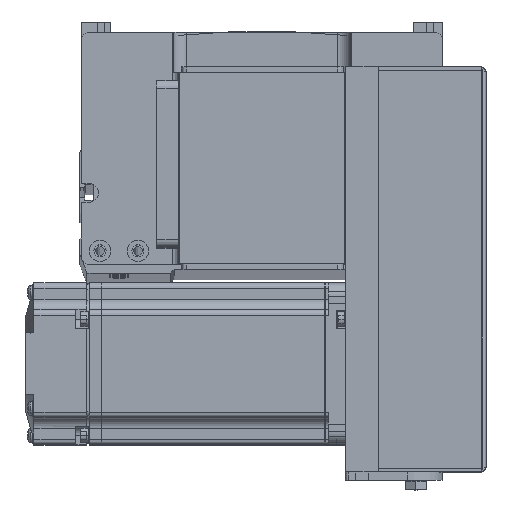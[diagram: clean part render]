
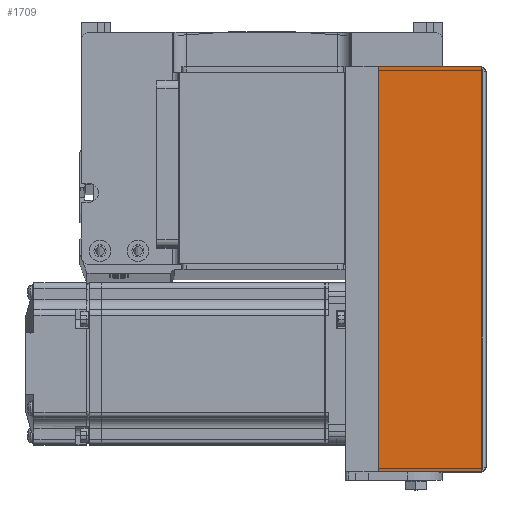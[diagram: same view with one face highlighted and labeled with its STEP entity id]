
A CAD part, top view. The second image highlights one B-rep face of the part: STEP entity #1709.
In plain terms, the highlighted planar face has unit normal (0, 0, 1) as drawn and (0, 1, 0) by its records, which use the part's own axes.
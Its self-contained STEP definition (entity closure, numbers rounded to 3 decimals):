
#1154 = PLANE ( 'NONE',  #24991 ) ;
#1709 = ADVANCED_FACE ( 'NONE', ( #30696 ), #1154, .F. ) ;
#2029 = VERTEX_POINT ( 'NONE', #3051 ) ;
#2820 = DIRECTION ( 'NONE',  ( -1., 0., 0. ) ) ;
#3043 = LINE ( 'NONE', #22473, #31407 ) ;
#3051 = CARTESIAN_POINT ( 'NONE',  ( -75., 36., 50.3 ) ) ;
#4293 = DIRECTION ( 'NONE',  ( 0., 0., -1. ) ) ;
#4439 = DIRECTION ( 'NONE',  ( -1., 0., 0. ) ) ;
#4645 = CARTESIAN_POINT ( 'NONE',  ( 0., 36., 12. ) ) ;
#5129 = VERTEX_POINT ( 'NONE', #18927 ) ;
#6926 = CARTESIAN_POINT ( 'NONE',  ( 75., 36., 50.3 ) ) ;
#7150 = DIRECTION ( 'NONE',  ( 0., 0., -1. ) ) ;
#10032 = ORIENTED_EDGE ( 'NONE', *, *, #41166, .T. ) ;
#10158 = VECTOR ( 'NONE', #7150, 1000. ) ;
#10776 = CARTESIAN_POINT ( 'NONE',  ( -75., 36., 50.3 ) ) ;
#11131 = LINE ( 'NONE', #4645, #12758 ) ;
#12758 = VECTOR ( 'NONE', #4439, 1000. ) ;
#16978 = ORIENTED_EDGE ( 'NONE', *, *, #26053, .F. ) ;
#18927 = CARTESIAN_POINT ( 'NONE',  ( 75., 36., 50.3 ) ) ;
#22473 = CARTESIAN_POINT ( 'NONE',  ( -75., 36., 50.3 ) ) ;
#23110 = CARTESIAN_POINT ( 'NONE',  ( 75., 36., 12. ) ) ;
#23755 = VECTOR ( 'NONE', #4293, 1000. ) ;
#24838 = EDGE_CURVE ( 'NONE', #2029, #33929, #40301, .T. ) ;
#24991 = AXIS2_PLACEMENT_3D ( 'NONE', #27697, #34361, #37379 ) ;
#26053 = EDGE_CURVE ( 'NONE', #5129, #2029, #3043, .T. ) ;
#27697 = CARTESIAN_POINT ( 'NONE',  ( 0., 36., 50.8 ) ) ;
#29401 = LINE ( 'NONE', #6926, #10158 ) ;
#30696 = FACE_OUTER_BOUND ( 'NONE', #31148, .T. ) ;
#31148 = EDGE_LOOP ( 'NONE', ( #16978, #10032, #40938, #37575 ) ) ;
#31407 = VECTOR ( 'NONE', #2820, 1000. ) ;
#33929 = VERTEX_POINT ( 'NONE', #40070 ) ;
#34361 = DIRECTION ( 'NONE',  ( 0., -1., 0. ) ) ;
#36507 = VERTEX_POINT ( 'NONE', #23110 ) ;
#37379 = DIRECTION ( 'NONE',  ( 0., 0., 1. ) ) ;
#37575 = ORIENTED_EDGE ( 'NONE', *, *, #24838, .F. ) ;
#39360 = EDGE_CURVE ( 'NONE', #36507, #33929, #11131, .T. ) ;
#40070 = CARTESIAN_POINT ( 'NONE',  ( -75., 36., 12. ) ) ;
#40301 = LINE ( 'NONE', #10776, #23755 ) ;
#40938 = ORIENTED_EDGE ( 'NONE', *, *, #39360, .T. ) ;
#41166 = EDGE_CURVE ( 'NONE', #5129, #36507, #29401, .T. ) ;
